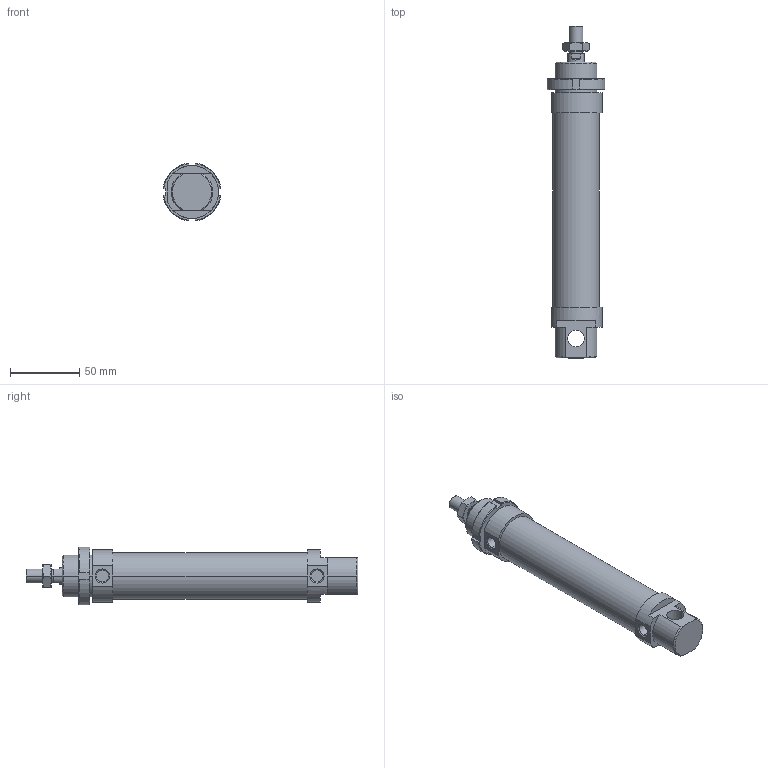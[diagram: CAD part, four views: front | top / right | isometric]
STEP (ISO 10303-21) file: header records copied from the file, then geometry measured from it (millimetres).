
FILE_DESCRIPTION((''),'2;1');
FILE_NAME('I:\DOC-EDP\Lib-3d\1200\CILINDRI\1280\1280_32_0100.stp','2003-04-07T19:04:32',('maffial1'),(''),'Autodesk Inventor (R) 6.0','Autodesk Inventor (R) 6.0','');
FILE_SCHEMA(('AUTOMOTIVE_DESIGN { 1 0 10303 214 1 1 1 1 }'));
Length unit declared in the file: millimetre
Products named in the file (5): 1280_32_0100; S1280_32_100; 1200_32_05; 1200_32_06; C1280_32_100
Assembly tree (4 placements, depth 2):
  1280_32_0100
    S1280_32_100
    1200_32_05
    1200_32_06
    C1280_32_100
Bounding box: 41.7 x 239 x 41.7 mm (x, y, z)
Volume: 190361 mm3; surface area: 41592.5 mm2
Topology: 4 solids, 4 shells, 122 faces, 286 edges, 180 vertices
Faces by surface type: plane 44, cone 32, cylinder 26, bspline 20
Entity records: 3831 total; most frequent: CARTESIAN_POINT 997, DIRECTION 582, ORIENTED_EDGE 572, EDGE_CURVE 286, AXIS2_PLACEMENT_3D 229, VERTEX_POINT 180, EDGE_LOOP 136, VECTOR 124
